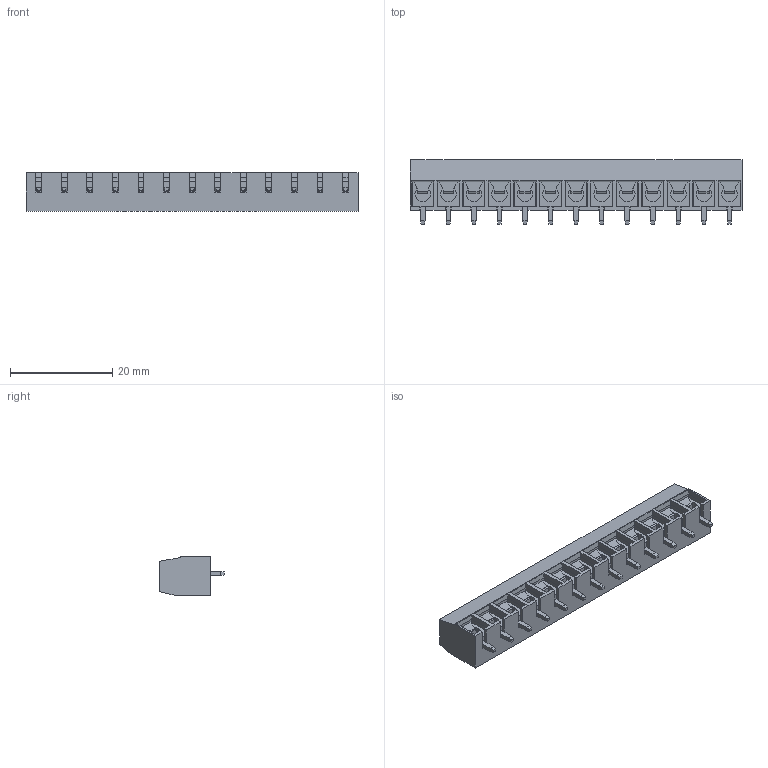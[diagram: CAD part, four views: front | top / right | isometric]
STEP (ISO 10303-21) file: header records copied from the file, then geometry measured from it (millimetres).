
FILE_DESCRIPTION((''),'2;1');
FILE_NAME('395930613','2015-02-25T',('me'),(''),'PRO/ENGINEER BY PARAMETRIC TECHNOLOGY CORPORATION, 2011490','PRO/ENGINEER BY PARAMETRIC TECHNOLOGY CORPORATION, 2011490','');
FILE_SCHEMA(('CONFIG_CONTROL_DESIGN'));
Length unit declared in the file: inch
Products named in the file (1): 395930613
Bounding box: 65 x 12.7 x 7.62 mm (x, y, z)
Volume: 3563.5 mm3; surface area: 5058.4 mm2
Topology: 1 solids, 1 shells, 789 faces, 1997 edges, 1288 vertices
Faces by surface type: plane 529, cylinder 104, torus 104, cone 26, bspline 26
Entity records: 24161 total; most frequent: CARTESIAN_POINT 5195, ORIENTED_EDGE 3890, DIRECTION 3863, EDGE_CURVE 1945, VECTOR 1347, LINE 1347, AXIS2_PLACEMENT_3D 1258, VERTEX_POINT 1210
